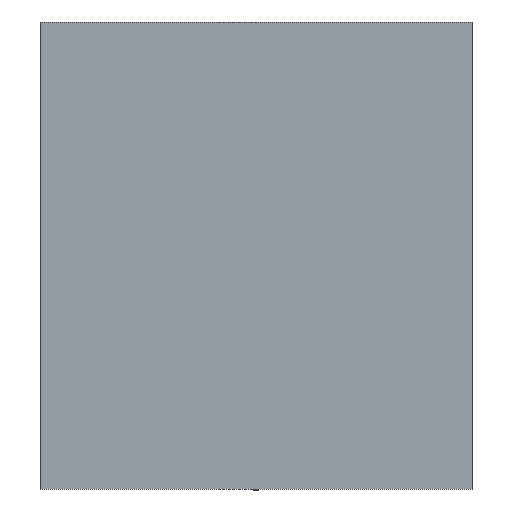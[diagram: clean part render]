
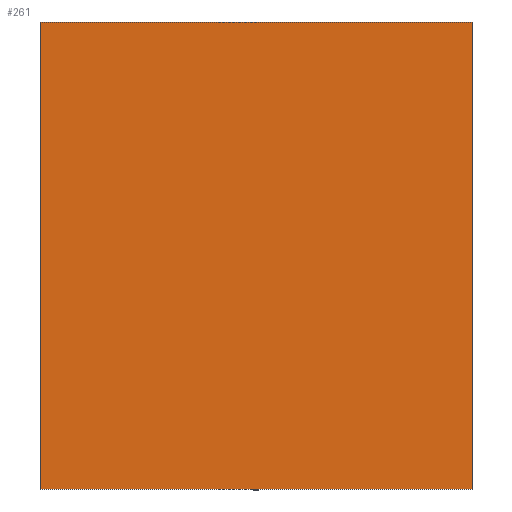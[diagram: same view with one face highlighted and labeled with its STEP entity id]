
A CAD part, left-side view. The second image highlights one B-rep face of the part: STEP entity #261.
In plain terms, the highlighted planar face has unit normal (-1, 0, 0).
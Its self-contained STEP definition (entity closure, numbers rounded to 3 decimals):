
#261 = ADVANCED_FACE( '', ( #586 ), #587, .T. );
#586 = FACE_OUTER_BOUND( '', #982, .T. );
#587 = PLANE( '', #983 );
#982 = EDGE_LOOP( '', ( #1533, #1534, #1535, #1536 ) );
#983 = AXIS2_PLACEMENT_3D( '', #1537, #1538, #1539 );
#1533 = ORIENTED_EDGE( '', *, *, #1859, .F. );
#1534 = ORIENTED_EDGE( '', *, *, #2014, .F. );
#1535 = ORIENTED_EDGE( '', *, *, #1935, .T. );
#1536 = ORIENTED_EDGE( '', *, *, #1964, .T. );
#1537 = CARTESIAN_POINT( '', ( -150., 150., -324.5 ) );
#1538 = DIRECTION( '', ( -1., 0., 0. ) );
#1539 = DIRECTION( '', ( 0., 1., 0. ) );
#1859 = EDGE_CURVE( '', #2119, #2120, #2121, .T. );
#1935 = EDGE_CURVE( '', #2246, #2247, #2248, .T. );
#1964 = EDGE_CURVE( '', #2247, #2120, #2292, .T. );
#2014 = EDGE_CURVE( '', #2246, #2119, #2364, .T. );
#2119 = VERTEX_POINT( '', #2492 );
#2120 = VERTEX_POINT( '', #2493 );
#2121 = LINE( '', #2494, #2495 );
#2246 = VERTEX_POINT( '', #2641 );
#2247 = VERTEX_POINT( '', #2642 );
#2248 = LINE( '', #2643, #2644 );
#2292 = LINE( '', #2696, #2697 );
#2364 = LINE( '', #2778, #2779 );
#2492 = CARTESIAN_POINT( '', ( -150., 150., 0. ) );
#2493 = CARTESIAN_POINT( '', ( -150., -150., 0. ) );
#2494 = CARTESIAN_POINT( '', ( -150., 150., 0. ) );
#2495 = VECTOR( '', #2904, 1000. );
#2641 = CARTESIAN_POINT( '', ( -150., 150., -324.5 ) );
#2642 = CARTESIAN_POINT( '', ( -150., -150., -324.5 ) );
#2643 = CARTESIAN_POINT( '', ( -150., -150., -324.5 ) );
#2644 = VECTOR( '', #3022, 1000. );
#2696 = CARTESIAN_POINT( '', ( -150., -150., -324.5 ) );
#2697 = VECTOR( '', #3067, 1000. );
#2778 = CARTESIAN_POINT( '', ( -150., 150., -324.5 ) );
#2779 = VECTOR( '', #3140, 1000. );
#2904 = DIRECTION( '', ( 0., -1., 0. ) );
#3022 = DIRECTION( '', ( 0., -1., 0. ) );
#3067 = DIRECTION( '', ( 0., 0., 1. ) );
#3140 = DIRECTION( '', ( 0., 0., 1. ) );
